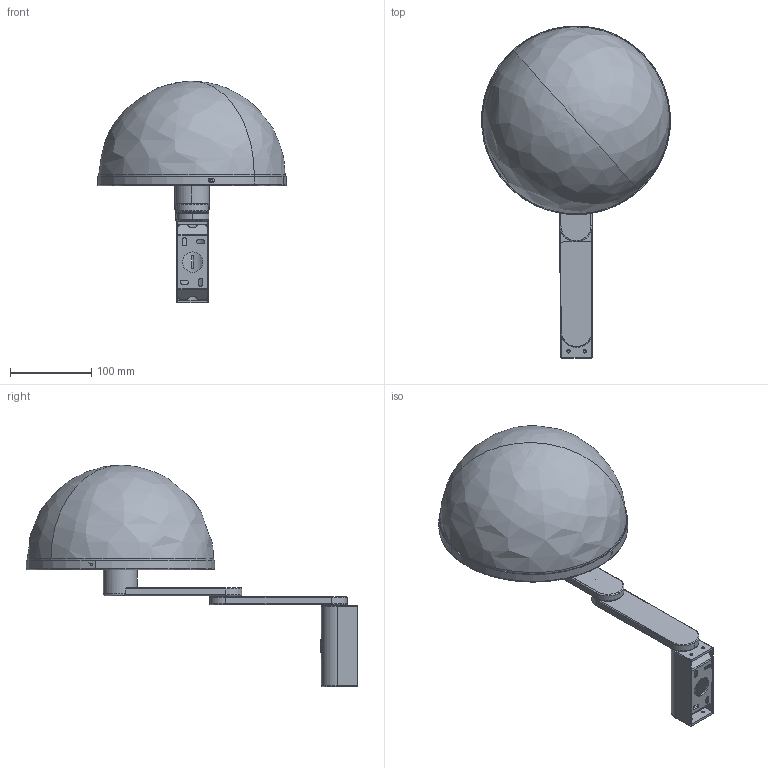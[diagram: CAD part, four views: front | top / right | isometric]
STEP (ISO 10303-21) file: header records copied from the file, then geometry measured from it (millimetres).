
FILE_DESCRIPTION(/* description */ (''),/* implementation_level */ '2;1');
FILE_NAME(/* name */ '29912_3d',/* time_stamp */ '2026-04-17T11:32:00+02:00',/* author */ (''),/* organization */ (''),/* preprocessor_version */ 'ST-DEVELOPER v19.2',/* originating_system */ 'Rhino 8.23',/* authorisation */ '');
FILE_SCHEMA (('CONFIG_CONTROL_DESIGN'));
Length unit declared in the file: millimetre
Products named in the file (2): Document; DOME 29912
Bounding box: 232.64 x 409.29 x 273 mm (x, y, z)
Volume: 140785.5 mm3; surface area: 366075 mm2
Topology: 18 solids, 94 shells, 1021 faces, 2580 edges, 1672 vertices
Faces by surface type: plane 379, bspline 324, cylinder 318
Entity records: 45759 total; most frequent: CARTESIAN_POINT 24936, ORIENTED_EDGE 4728, EDGE_CURVE 2570, DIRECTION 2569, VERTEX_POINT 1672, AXIS2_PLACEMENT_3D 1633, B_SPLINE_CURVE_WITH_KNOTS 1439, EDGE_LOOP 1138
